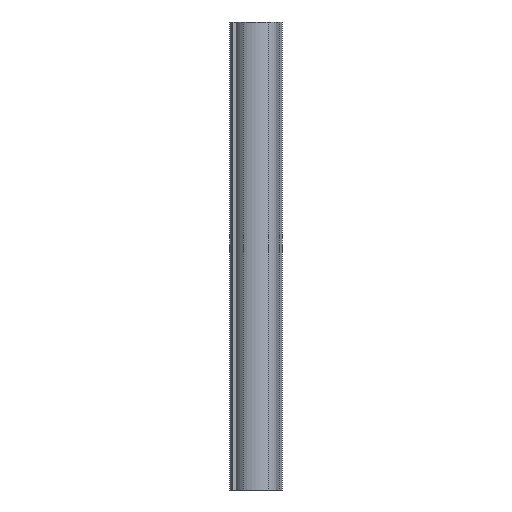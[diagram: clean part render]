
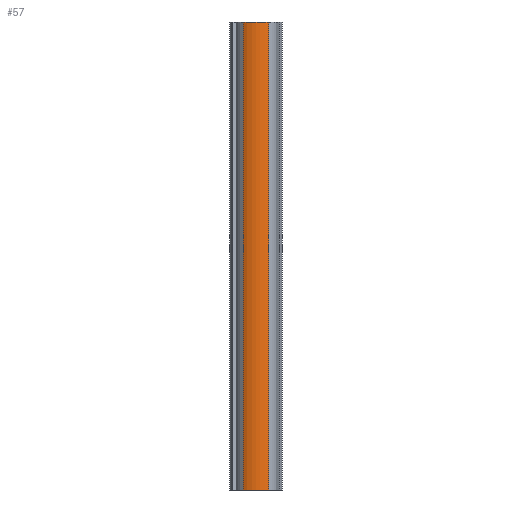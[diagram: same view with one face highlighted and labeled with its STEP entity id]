
A CAD part, front view. The second image highlights one B-rep face of the part: STEP entity #57.
In plain terms, the highlighted cylindrical face has radius 14 mm (diameter 28 mm), a partial arc.
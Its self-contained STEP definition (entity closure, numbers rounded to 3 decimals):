
#56 = ORIENTED_EDGE ( 'NONE', *, *, #63, .T. ) ;
#57 = ADVANCED_FACE ( 'NONE', ( #712 ), #720, .T. ) ;
#58 = ORIENTED_EDGE ( 'NONE', *, *, #71, .F. ) ;
#59 = ORIENTED_EDGE ( 'NONE', *, *, #142, .F. ) ;
#62 = EDGE_LOOP ( 'NONE', ( #59, #58, #161, #56 ) ) ;
#63 = EDGE_CURVE ( 'NONE', #75, #64, #653, .T. ) ;
#64 = VERTEX_POINT ( 'NONE', #601 ) ;
#68 = VERTEX_POINT ( 'NONE', #649 ) ;
#69 = VERTEX_POINT ( 'NONE', #661 ) ;
#71 = EDGE_CURVE ( 'NONE', #68, #69, #699, .T. ) ;
#75 = VERTEX_POINT ( 'NONE', #708 ) ;
#142 = EDGE_CURVE ( 'NONE', #69, #64, #873, .T. ) ;
#157 = EDGE_CURVE ( 'NONE', #68, #75, #886, .T. ) ;
#161 = ORIENTED_EDGE ( 'NONE', *, *, #157, .T. ) ;
#601 = CARTESIAN_POINT ( 'NONE',  ( -25.349, 24.054, 0. ) ) ;
#603 = DIRECTION ( 'NONE',  ( 1., 0., 0. ) ) ;
#604 = DIRECTION ( 'NONE',  ( 0., 0., 1. ) ) ;
#620 = CARTESIAN_POINT ( 'NONE',  ( -32.044, 36.35, -250. ) ) ;
#649 = CARTESIAN_POINT ( 'NONE',  ( -38.738, 24.054, -250. ) ) ;
#650 = DIRECTION ( 'NONE',  ( 0., 0., 1. ) ) ;
#651 = VECTOR ( 'NONE', #650, 1000. ) ;
#652 = CARTESIAN_POINT ( 'NONE',  ( -25.349, 24.054, -250. ) ) ;
#653 = LINE ( 'NONE', #652, #651 ) ;
#661 = CARTESIAN_POINT ( 'NONE',  ( -38.738, 24.054, 0. ) ) ;
#696 = DIRECTION ( 'NONE',  ( 0., 0., 1. ) ) ;
#697 = VECTOR ( 'NONE', #696, 1000. ) ;
#698 = CARTESIAN_POINT ( 'NONE',  ( -38.738, 24.054, -250. ) ) ;
#699 = LINE ( 'NONE', #698, #697 ) ;
#708 = CARTESIAN_POINT ( 'NONE',  ( -25.349, 24.054, -250. ) ) ;
#712 = FACE_OUTER_BOUND ( 'NONE', #62, .T. ) ;
#720 = CYLINDRICAL_SURFACE ( 'NONE', #721, 14. ) ;
#721 = AXIS2_PLACEMENT_3D ( 'NONE', #620, #604, #603 ) ;
#812 = DIRECTION ( 'NONE',  ( 1., 0., 0. ) ) ;
#813 = DIRECTION ( 'NONE',  ( 0., 0., 1. ) ) ;
#814 = CARTESIAN_POINT ( 'NONE',  ( -32.044, 36.35, 0. ) ) ;
#873 = CIRCLE ( 'NONE', #888, 14. ) ;
#880 = DIRECTION ( 'NONE',  ( 1., 0., 0. ) ) ;
#881 = DIRECTION ( 'NONE',  ( 0., 0., 1. ) ) ;
#882 = CARTESIAN_POINT ( 'NONE',  ( -32.044, 36.35, -250. ) ) ;
#883 = AXIS2_PLACEMENT_3D ( 'NONE', #882, #881, #880 ) ;
#886 = CIRCLE ( 'NONE', #883, 14. ) ;
#888 = AXIS2_PLACEMENT_3D ( 'NONE', #814, #813, #812 ) ;
